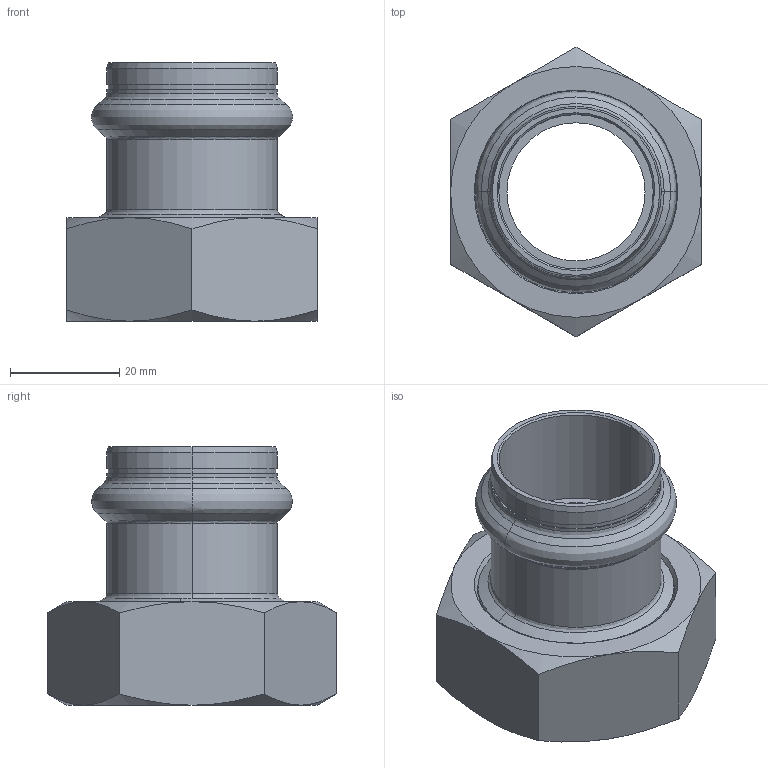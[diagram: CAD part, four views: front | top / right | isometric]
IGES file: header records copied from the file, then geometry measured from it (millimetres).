
Start section: Elysium IGES Interface
Global section: file name: C:\3d modellen sudo\C-Pr VP\SP8359GV\8359GVW28114.igs; native system: CoCreate Modeling 17.00A  17-Jun-2010; preprocessor: CoCreate IGES_3D V2.2; author: Unknown; organization: Unknown; date: 20130305.134322; units: millimetre
Bounding box: 46 x 53.12 x 47.4 mm (x, y, z)
Volume: 22436.6 mm3; surface area: 15046.1 mm2
Topology: 2 solids, 2 shells, 86 faces, 194 edges, 110 vertices
Faces by surface type: bspline 86
